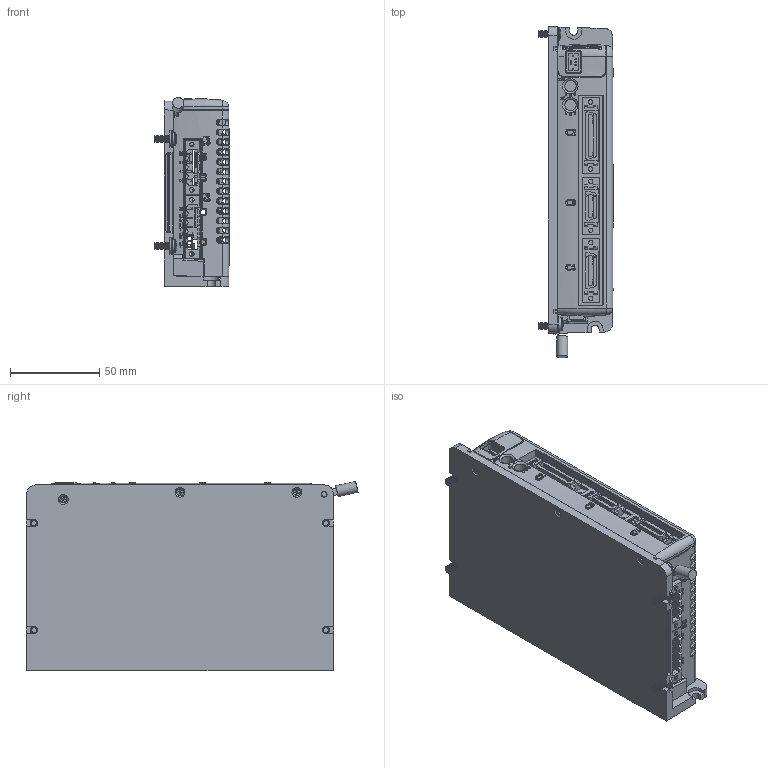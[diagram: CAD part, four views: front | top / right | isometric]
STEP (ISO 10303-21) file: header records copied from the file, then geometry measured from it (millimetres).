
FILE_DESCRIPTION (( 'STEP AP214' ), '1' );
FILE_NAME ('CDHD2 LV.STEP', '2019-10-23T06:44:05', ( '' ), ( '' ), 'SwSTEP 2.0', 'SolidWorks 2016', '' );
FILE_SCHEMA (( 'AUTOMOTIVE_DESIGN' ));
Length unit declared in the file: millimetre
Products named in the file (1): CDHD2 LV
Bounding box: 42.35 x 186.22 x 106.17 mm (x, y, z)
Surface area: 156604.6 mm2 (no closed solid volume)
Topology: 0 solids, 180 shells, 2411 faces, 10285 edges, 7806 vertices
Faces by surface type: plane 1308, bspline 470, cylinder 388, cone 177, torus 66, sphere 2
Full cylindrical faces by diameter (mm): 0.284 x1, 0.635 x1, 2.54 x1, 2.6 x4, 3 x4, 3.2 x1, 3.3 x1, 3.302 x1, 3.8 x3, 3.81 x1, 4 x38, 5.5 x2, 6.2 x1, 6.5 x2, 7 x5, 9 x4
Entity records: 160482 total; most frequent: CARTESIAN_POINT 58508, ORIENTED_EDGE 14867, DIRECTION 12847, EDGE_CURVE 10000, VERTEX_POINT 7710, LINE 5991, VECTOR 5991, AXIS2_PLACEMENT_3D 3428
